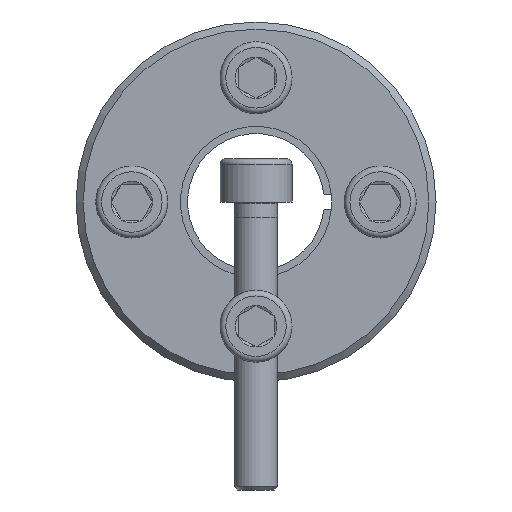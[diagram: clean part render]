
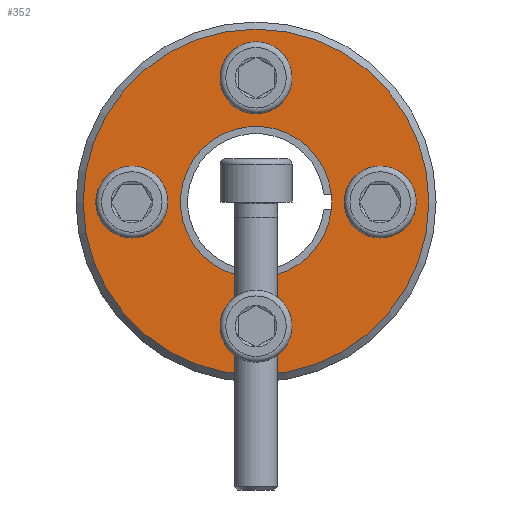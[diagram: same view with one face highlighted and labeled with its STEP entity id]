
A CAD part, front view. The second image highlights one B-rep face of the part: STEP entity #352.
In plain terms, the highlighted planar face has unit normal (0, -1, 0).
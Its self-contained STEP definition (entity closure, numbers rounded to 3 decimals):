
#352 = ADVANCED_FACE( '', ( #551, #552, #553, #554, #555, #556 ), #557, .F. );
#551 = FACE_OUTER_BOUND( '', #701, .T. );
#552 = FACE_BOUND( '', #702, .T. );
#553 = FACE_BOUND( '', #703, .T. );
#554 = FACE_BOUND( '', #704, .T. );
#555 = FACE_BOUND( '', #705, .T. );
#556 = FACE_BOUND( '', #706, .T. );
#557 = PLANE( '', #707 );
#701 = EDGE_LOOP( '', ( #874 ) );
#702 = EDGE_LOOP( '', ( #875 ) );
#703 = EDGE_LOOP( '', ( #876 ) );
#704 = EDGE_LOOP( '', ( #877 ) );
#705 = EDGE_LOOP( '', ( #878 ) );
#706 = EDGE_LOOP( '', ( #879, #880, #881, #882 ) );
#707 = AXIS2_PLACEMENT_3D( '', #883, #884, #885 );
#874 = ORIENTED_EDGE( '', *, *, #1219, .T. );
#875 = ORIENTED_EDGE( '', *, *, #1220, .T. );
#876 = ORIENTED_EDGE( '', *, *, #1221, .T. );
#877 = ORIENTED_EDGE( '', *, *, #1222, .T. );
#878 = ORIENTED_EDGE( '', *, *, #1223, .T. );
#879 = ORIENTED_EDGE( '', *, *, #1224, .F. );
#880 = ORIENTED_EDGE( '', *, *, #1225, .T. );
#881 = ORIENTED_EDGE( '', *, *, #1226, .T. );
#882 = ORIENTED_EDGE( '', *, *, #1227, .F. );
#883 = CARTESIAN_POINT( '', ( 0., 0., 25. ) );
#884 = DIRECTION( '', ( 0., 1., 0. ) );
#885 = DIRECTION( '', ( 0., 0., 1. ) );
#1219 = EDGE_CURVE( '', #1342, #1342, #1343, .F. );
#1220 = EDGE_CURVE( '', #1344, #1344, #1345, .T. );
#1221 = EDGE_CURVE( '', #1346, #1346, #1347, .T. );
#1222 = EDGE_CURVE( '', #1348, #1348, #1349, .T. );
#1223 = EDGE_CURVE( '', #1350, #1350, #1351, .T. );
#1224 = EDGE_CURVE( '', #1352, #1353, #1354, .T. );
#1225 = EDGE_CURVE( '', #1352, #1355, #1356, .T. );
#1226 = EDGE_CURVE( '', #1355, #1357, #1358, .T. );
#1227 = EDGE_CURVE( '', #1353, #1357, #1359, .T. );
#1342 = VERTEX_POINT( '', #1450 );
#1343 = CIRCLE( '', #1451, 24. );
#1344 = VERTEX_POINT( '', #1452 );
#1345 = CIRCLE( '', #1453, 3. );
#1346 = VERTEX_POINT( '', #1454 );
#1347 = CIRCLE( '', #1455, 3. );
#1348 = VERTEX_POINT( '', #1456 );
#1349 = CIRCLE( '', #1457, 3. );
#1350 = VERTEX_POINT( '', #1458 );
#1351 = CIRCLE( '', #1459, 3. );
#1352 = VERTEX_POINT( '', #1460 );
#1353 = VERTEX_POINT( '', #1461 );
#1354 = CIRCLE( '', #1462, 10.5 );
#1355 = VERTEX_POINT( '', #1463 );
#1356 = LINE( '', #1464, #1465 );
#1357 = VERTEX_POINT( '', #1466 );
#1358 = LINE( '', #1467, #1468 );
#1359 = LINE( '', #1469, #1470 );
#1450 = CARTESIAN_POINT( '', ( 0., 0., 24. ) );
#1451 = AXIS2_PLACEMENT_3D( '', #1606, #1607, #1608 );
#1452 = CARTESIAN_POINT( '', ( -17.25, 0., 3. ) );
#1453 = AXIS2_PLACEMENT_3D( '', #1609, #1610, #1611 );
#1454 = CARTESIAN_POINT( '', ( -3., 0., -17.25 ) );
#1455 = AXIS2_PLACEMENT_3D( '', #1612, #1613, #1614 );
#1456 = CARTESIAN_POINT( '', ( 17.25, 0., -3. ) );
#1457 = AXIS2_PLACEMENT_3D( '', #1615, #1616, #1617 );
#1458 = CARTESIAN_POINT( '', ( 3., 0., 17.25 ) );
#1459 = AXIS2_PLACEMENT_3D( '', #1618, #1619, #1620 );
#1460 = CARTESIAN_POINT( '', ( 10.452, 0., 1. ) );
#1461 = CARTESIAN_POINT( '', ( 10.452, 0., -1. ) );
#1462 = AXIS2_PLACEMENT_3D( '', #1621, #1622, #1623 );
#1463 = CARTESIAN_POINT( '', ( 10.5, 0., 1. ) );
#1464 = CARTESIAN_POINT( '', ( 0., 0., 1. ) );
#1465 = VECTOR( '', #1624, 1000. );
#1466 = CARTESIAN_POINT( '', ( 10.5, 0., -1. ) );
#1467 = CARTESIAN_POINT( '', ( 10.5, 0., 1. ) );
#1468 = VECTOR( '', #1625, 1000. );
#1469 = CARTESIAN_POINT( '', ( 0., 0., -1. ) );
#1470 = VECTOR( '', #1626, 1000. );
#1606 = CARTESIAN_POINT( '', ( 0., 0., 0. ) );
#1607 = DIRECTION( '', ( 0., 1., 0. ) );
#1608 = DIRECTION( '', ( 0., 0., 1. ) );
#1609 = CARTESIAN_POINT( '', ( -17.25, 0., 0. ) );
#1610 = DIRECTION( '', ( 0., 1., 0. ) );
#1611 = DIRECTION( '', ( 0., 0., 1. ) );
#1612 = CARTESIAN_POINT( '', ( 0., 0., -17.25 ) );
#1613 = DIRECTION( '', ( 0., 1., 0. ) );
#1614 = DIRECTION( '', ( -1., 0., 0. ) );
#1615 = CARTESIAN_POINT( '', ( 17.25, 0., 0. ) );
#1616 = DIRECTION( '', ( 0., 1., 0. ) );
#1617 = DIRECTION( '', ( 0., 0., -1. ) );
#1618 = CARTESIAN_POINT( '', ( 0., 0., 17.25 ) );
#1619 = DIRECTION( '', ( 0., 1., 0. ) );
#1620 = DIRECTION( '', ( 1., 0., 0. ) );
#1621 = CARTESIAN_POINT( '', ( 0., 0., 0. ) );
#1622 = DIRECTION( '', ( 0., -1., 0. ) );
#1623 = DIRECTION( '', ( 0., 0., -1. ) );
#1624 = DIRECTION( '', ( 1., 0., 0. ) );
#1625 = DIRECTION( '', ( 0., 0., -1. ) );
#1626 = DIRECTION( '', ( 1., 0., 0. ) );
